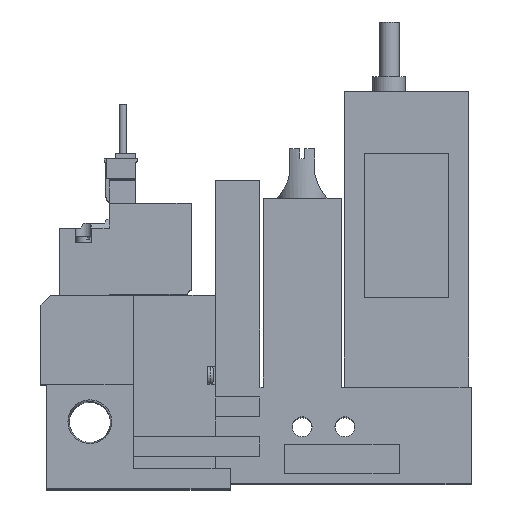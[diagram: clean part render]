
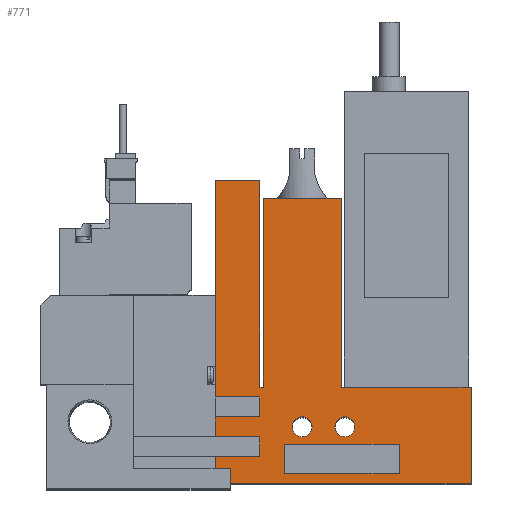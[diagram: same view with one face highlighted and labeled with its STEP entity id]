
A CAD part, top view. The second image highlights one B-rep face of the part: STEP entity #771.
In plain terms, the highlighted planar face has unit normal (0, 0, 1).
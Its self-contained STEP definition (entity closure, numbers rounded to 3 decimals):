
#771=ADVANCED_FACE('',(#1539,#1540,#1541,#1542),#1543,.T.);
#1539=FACE_OUTER_BOUND('',#2624,.T.);
#1540=FACE_BOUND('',#2625,.T.);
#1541=FACE_BOUND('',#2626,.T.);
#1542=FACE_BOUND('',#2627,.T.);
#1543=PLANE('',#2628);
#2624=EDGE_LOOP('',(#5304,#5305,#5306,#5307,#5308,#5309,#5310,#5311,#5312,#5313,#5314,#5315,#5316,#5317,#5318,#5319,#5320,#5321));
#2625=EDGE_LOOP('',(#5322,#5323,#5324,#5325));
#2626=EDGE_LOOP('',(#5326));
#2627=EDGE_LOOP('',(#5327));
#2628=AXIS2_PLACEMENT_3D('',#5328,#5329,#5330);
#5304=ORIENTED_EDGE('',*,*,#7398,.T.);
#5305=ORIENTED_EDGE('',*,*,#7413,.T.);
#5306=ORIENTED_EDGE('',*,*,#7414,.T.);
#5307=ORIENTED_EDGE('',*,*,#7404,.T.);
#5308=ORIENTED_EDGE('',*,*,#7354,.T.);
#5309=ORIENTED_EDGE('',*,*,#7415,.T.);
#5310=ORIENTED_EDGE('',*,*,#7416,.T.);
#5311=ORIENTED_EDGE('',*,*,#7417,.T.);
#5312=ORIENTED_EDGE('',*,*,#7418,.T.);
#5313=ORIENTED_EDGE('',*,*,#7419,.T.);
#5314=ORIENTED_EDGE('',*,*,#7420,.T.);
#5315=ORIENTED_EDGE('',*,*,#7411,.T.);
#5316=ORIENTED_EDGE('',*,*,#7421,.T.);
#5317=ORIENTED_EDGE('',*,*,#7422,.T.);
#5318=ORIENTED_EDGE('',*,*,#7423,.T.);
#5319=ORIENTED_EDGE('',*,*,#7424,.T.);
#5320=ORIENTED_EDGE('',*,*,#7425,.T.);
#5321=ORIENTED_EDGE('',*,*,#7426,.T.);
#5322=ORIENTED_EDGE('',*,*,#7427,.T.);
#5323=ORIENTED_EDGE('',*,*,#7428,.T.);
#5324=ORIENTED_EDGE('',*,*,#7429,.T.);
#5325=ORIENTED_EDGE('',*,*,#7408,.T.);
#5326=ORIENTED_EDGE('',*,*,#7430,.T.);
#5327=ORIENTED_EDGE('',*,*,#7431,.T.);
#5328=CARTESIAN_POINT('',(0.0,0.0,10.0));
#5329=DIRECTION('',(0.0,0.0,1.0));
#5330=DIRECTION('',(1.0,0.0,0.0));
#7354=EDGE_CURVE('',#8898,#8896,#8899,.T.);
#7398=EDGE_CURVE('',#8982,#8980,#8983,.T.);
#7404=EDGE_CURVE('',#8987,#8898,#8993,.T.);
#7408=EDGE_CURVE('',#8994,#8999,#9001,.T.);
#7411=EDGE_CURVE('',#9007,#9005,#9008,.T.);
#7413=EDGE_CURVE('',#8980,#9010,#9011,.T.);
#7414=EDGE_CURVE('',#9010,#8987,#9012,.T.);
#7415=EDGE_CURVE('',#8896,#9013,#9014,.T.);
#7416=EDGE_CURVE('',#9013,#9015,#9016,.T.);
#7417=EDGE_CURVE('',#9015,#9017,#9018,.T.);
#7418=EDGE_CURVE('',#9017,#9019,#9020,.T.);
#7419=EDGE_CURVE('',#9019,#9021,#9022,.T.);
#7420=EDGE_CURVE('',#9021,#9007,#9023,.T.);
#7421=EDGE_CURVE('',#9005,#9024,#9025,.T.);
#7422=EDGE_CURVE('',#9024,#9026,#9027,.T.);
#7423=EDGE_CURVE('',#9026,#9028,#9029,.T.);
#7424=EDGE_CURVE('',#9028,#9030,#9031,.T.);
#7425=EDGE_CURVE('',#9030,#9032,#9033,.T.);
#7426=EDGE_CURVE('',#9032,#8982,#9034,.T.);
#7427=EDGE_CURVE('',#8999,#9035,#9036,.T.);
#7428=EDGE_CURVE('',#9035,#9037,#9038,.T.);
#7429=EDGE_CURVE('',#9037,#8994,#9039,.T.);
#7430=EDGE_CURVE('',#9040,#9040,#9041,.T.);
#7431=EDGE_CURVE('',#9042,#9042,#9043,.T.);
#8896=VERTEX_POINT('',#11398);
#8898=VERTEX_POINT('',#11401);
#8899=LINE('',#11402,#11403);
#8980=VERTEX_POINT('',#11523);
#8982=VERTEX_POINT('',#11526);
#8983=LINE('',#11527,#11528);
#8987=VERTEX_POINT('',#11533);
#8993=LINE('',#11542,#11543);
#8994=VERTEX_POINT('',#11544);
#8999=VERTEX_POINT('',#11551);
#9001=LINE('',#11554,#11555);
#9005=VERTEX_POINT('',#11560);
#9007=VERTEX_POINT('',#11563);
#9008=LINE('',#11564,#11565);
#9010=VERTEX_POINT('',#11568);
#9011=LINE('',#11569,#11570);
#9012=LINE('',#11571,#11572);
#9013=VERTEX_POINT('',#11573);
#9014=LINE('',#11574,#11575);
#9015=VERTEX_POINT('',#11576);
#9016=LINE('',#11577,#11578);
#9017=VERTEX_POINT('',#11579);
#9018=LINE('',#11580,#11581);
#9019=VERTEX_POINT('',#11582);
#9020=LINE('',#11583,#11584);
#9021=VERTEX_POINT('',#11585);
#9022=LINE('',#11586,#11587);
#9023=LINE('',#11588,#11589);
#9024=VERTEX_POINT('',#11590);
#9025=LINE('',#11591,#11592);
#9026=VERTEX_POINT('',#11593);
#9027=LINE('',#11594,#11595);
#9028=VERTEX_POINT('',#11596);
#9029=LINE('',#11597,#11598);
#9030=VERTEX_POINT('',#11599);
#9031=LINE('',#11600,#11601);
#9032=VERTEX_POINT('',#11602);
#9033=LINE('',#11603,#11604);
#9034=LINE('',#11605,#11606);
#9035=VERTEX_POINT('',#11607);
#9036=LINE('',#11608,#11609);
#9037=VERTEX_POINT('',#11610);
#9038=LINE('',#11611,#11612);
#9039=LINE('',#11613,#11614);
#9040=VERTEX_POINT('',#11615);
#9041=CIRCLE('',#11616,2.0);
#9042=VERTEX_POINT('',#11617);
#9043=CIRCLE('',#11618,2.0);
#11398=CARTESIAN_POINT('',(35.1,9.5,10.0));
#11401=CARTESIAN_POINT('',(35.1,13.5,10.0));
#11402=CARTESIAN_POINT('',(35.1,0.0,10.0));
#11403=VECTOR('',#13515,1.0);
#11523=CARTESIAN_POINT('',(35.1,17.5,10.0));
#11526=CARTESIAN_POINT('',(35.1,61.0,10.0));
#11527=CARTESIAN_POINT('',(35.1,61.0,10.0));
#11528=VECTOR('',#13565,1.0);
#11533=CARTESIAN_POINT('',(44.1,13.5,10.0));
#11542=CARTESIAN_POINT('',(0.0,13.5,10.0));
#11543=VECTOR('',#13573,1.0);
#11544=CARTESIAN_POINT('',(72.1,2.0,10.0));
#11551=CARTESIAN_POINT('',(49.1,2.0,10.0));
#11554=CARTESIAN_POINT('',(0.0,2.0,10.0));
#11555=VECTOR('',#13577,1.0);
#11560=CARTESIAN_POINT('',(60.45,19.5,10.0));
#11563=CARTESIAN_POINT('',(86.6,19.5,10.0));
#11564=CARTESIAN_POINT('',(86.6,19.5,10.0));
#11565=VECTOR('',#13580,1.0);
#11568=CARTESIAN_POINT('',(44.1,17.5,10.0));
#11569=CARTESIAN_POINT('',(0.0,17.5,10.0));
#11570=VECTOR('',#13582,1.0);
#11571=CARTESIAN_POINT('',(44.1,0.0,10.0));
#11572=VECTOR('',#13583,1.0);
#11573=CARTESIAN_POINT('',(44.1,9.5,10.0));
#11574=CARTESIAN_POINT('',(0.0,9.5,10.0));
#11575=VECTOR('',#13584,1.0);
#11576=CARTESIAN_POINT('',(44.1,5.5,10.0));
#11577=CARTESIAN_POINT('',(44.1,0.0,10.0));
#11578=VECTOR('',#13585,1.0);
#11579=CARTESIAN_POINT('',(35.1,5.5,10.0));
#11580=CARTESIAN_POINT('',(0.0,5.5,10.0));
#11581=VECTOR('',#13586,1.0);
#11582=CARTESIAN_POINT('',(35.1,0.0,10.0));
#11583=CARTESIAN_POINT('',(35.1,0.0,10.0));
#11584=VECTOR('',#13587,1.0);
#11585=CARTESIAN_POINT('',(86.6,0.0,10.0));
#11586=CARTESIAN_POINT('',(18.6,0.0,10.0));
#11587=VECTOR('',#13588,1.0);
#11588=CARTESIAN_POINT('',(86.6,0.0,10.0));
#11589=VECTOR('',#13589,1.0);
#11590=CARTESIAN_POINT('',(60.45,57.5,10.0));
#11591=CARTESIAN_POINT('',(60.45,19.5,10.0));
#11592=VECTOR('',#13590,1.0);
#11593=CARTESIAN_POINT('',(44.75,57.5,10.0));
#11594=CARTESIAN_POINT('',(60.45,57.5,10.0));
#11595=VECTOR('',#13591,1.0);
#11596=CARTESIAN_POINT('',(44.75,19.5,10.0));
#11597=CARTESIAN_POINT('',(44.75,57.5,10.0));
#11598=VECTOR('',#13592,1.0);
#11599=CARTESIAN_POINT('',(44.1,19.5,10.0));
#11600=CARTESIAN_POINT('',(44.75,19.5,10.0));
#11601=VECTOR('',#13593,1.0);
#11602=CARTESIAN_POINT('',(44.1,61.0,10.0));
#11603=CARTESIAN_POINT('',(44.1,19.5,10.0));
#11604=VECTOR('',#13594,1.0);
#11605=CARTESIAN_POINT('',(44.1,61.0,10.0));
#11606=VECTOR('',#13595,1.0);
#11607=CARTESIAN_POINT('',(49.1,8.0,10.0));
#11608=CARTESIAN_POINT('',(49.1,0.0,10.0));
#11609=VECTOR('',#13596,1.0);
#11610=CARTESIAN_POINT('',(72.1,8.0,10.0));
#11611=CARTESIAN_POINT('',(0.0,8.0,10.0));
#11612=VECTOR('',#13597,1.0);
#11613=CARTESIAN_POINT('',(72.1,0.0,10.0));
#11614=VECTOR('',#13598,1.0);
#11615=CARTESIAN_POINT('',(54.6,11.5,10.0));
#11616=AXIS2_PLACEMENT_3D('',#13599,#13600,#13601);
#11617=CARTESIAN_POINT('',(63.2,11.5,10.0));
#11618=AXIS2_PLACEMENT_3D('',#13602,#13603,#13604);
#13515=DIRECTION('',(0.0,-1.0,0.0));
#13565=DIRECTION('',(0.0,-1.0,0.0));
#13573=DIRECTION('',(-1.0,0.0,0.0));
#13577=DIRECTION('',(-1.0,0.0,0.0));
#13580=DIRECTION('',(-1.0,0.0,0.0));
#13582=DIRECTION('',(1.0,0.0,0.0));
#13583=DIRECTION('',(0.0,-1.0,0.0));
#13584=DIRECTION('',(1.0,0.0,0.0));
#13585=DIRECTION('',(0.0,-1.0,0.0));
#13586=DIRECTION('',(-1.0,0.0,0.0));
#13587=DIRECTION('',(0.0,-1.0,0.0));
#13588=DIRECTION('',(1.0,0.0,0.0));
#13589=DIRECTION('',(0.0,1.0,0.0));
#13590=DIRECTION('',(0.0,1.0,0.0));
#13591=DIRECTION('',(-1.0,0.0,0.0));
#13592=DIRECTION('',(0.0,-1.0,0.0));
#13593=DIRECTION('',(-1.0,0.0,0.0));
#13594=DIRECTION('',(0.0,1.0,0.0));
#13595=DIRECTION('',(-1.0,0.0,0.0));
#13596=DIRECTION('',(0.0,1.0,0.0));
#13597=DIRECTION('',(1.0,0.0,0.0));
#13598=DIRECTION('',(0.0,-1.0,0.0));
#13599=CARTESIAN_POINT('',(52.6,11.5,10.0));
#13600=DIRECTION('',(0.0,0.0,-1.0));
#13601=DIRECTION('',(1.0,0.0,0.0));
#13602=CARTESIAN_POINT('',(61.2,11.5,10.0));
#13603=DIRECTION('',(0.0,0.0,-1.0));
#13604=DIRECTION('',(1.0,0.0,0.0));
